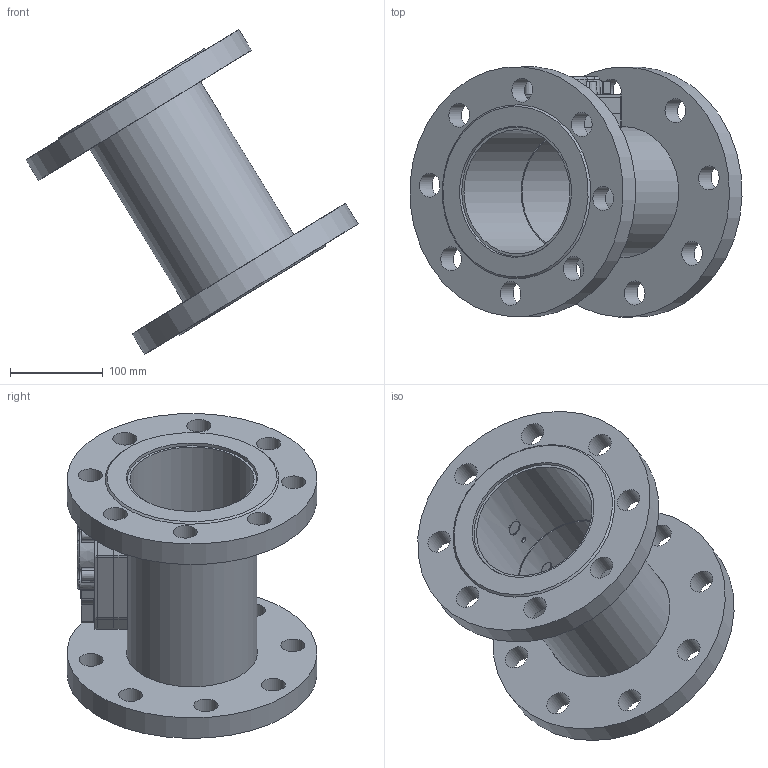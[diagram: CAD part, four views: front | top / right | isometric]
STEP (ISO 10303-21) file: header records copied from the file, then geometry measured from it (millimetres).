
FILE_DESCRIPTION( ( 'Unknown' ), '1' );
FILE_NAME( 'H:/440 pour vente_mai_2013/step_2/DN125_PN25_inox_250mm_rempli.stp', 'Unknown', ( 'Unknown' ), ( 'Unknown' ), 'PSStep 15.0.49', 'Unknown', ' ' );
FILE_SCHEMA( ( 'AUTOMOTIVE_DESIGN { 1 0 10303 214 1 1 1 1 }' ) );
Length unit declared in the file: millimetre
Products named in the file (9): 440_tête_rempli; 0440P011_rempli; 0440P012_rempli; 0440P060_rempli; Assem1; 0440P202_rempli; 0440P225_rempli; 0440P230_rempli; 0440P302_rempli
Assembly tree (10 placements, depth 3):
  Assem1
    0440P202_rempli
    0440P225_rempli  x2
    0440P230_rempli
    0440P302_rempli  x2
    440_tête_rempli
      0440P011_rempli
      0440P012_rempli
      0440P060_rempli
Bounding box: 358.37 x 269.82 x 350.55 mm (x, y, z)
Volume: 2763861.8 mm3; surface area: 555013.4 mm2
Topology: 9 solids, 14 shells, 276 faces, 701 edges, 440 vertices
Faces by surface type: cylinder 96, plane 79, cone 57, torus 29, bspline 15
Full cylindrical faces by diameter (mm): 2.2 x1, 2.459 x2, 2.5 x1, 3 x2, 3.242 x4, 4.1 x1, 5.03 x1, 6 x1, 6.2 x6, 6.917 x2, 10.2 x2, 16 x2, 20 x4, 26 x16, 134 x1, 139.7 x1, 141.5 x2, 270 x2
Entity records: 13568 total; most frequent: CARTESIAN_POINT 5522, DIRECTION 1281, ORIENTED_EDGE 1090, EDGE_CURVE 545, AXIS2_PLACEMENT_3D 538, VERTEX_POINT 377, EDGE_LOOP 362, FACE_OUTER_BOUND 297
